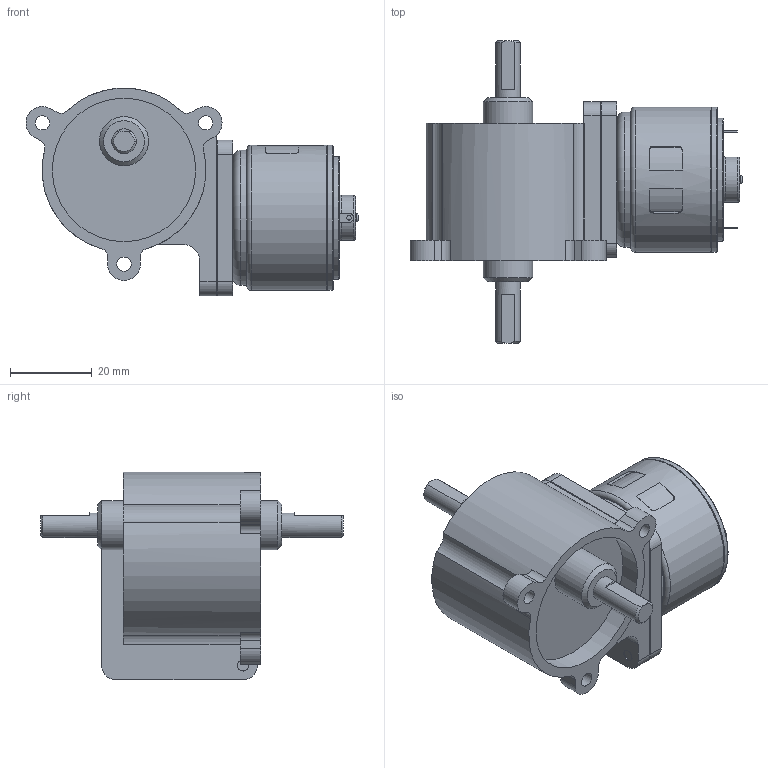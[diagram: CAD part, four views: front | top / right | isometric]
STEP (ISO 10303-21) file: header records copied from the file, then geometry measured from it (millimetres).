
FILE_DESCRIPTION(/* description */ (''),/* implementation_level */ '2;1');
FILE_NAME(/* name */ 'TP-3526NA-KWR.stp',/* time_stamp */ '2024-01-10T09:25:11+09:00',/* author */ ('user'),/* organization */ (''),/* preprocessor_version */ 'ST-DEVELOPER v19.2',/* originating_system */ 'Autodesk Inventor 2024',/* authorisation */ '');
FILE_SCHEMA (('AUTOMOTIVE_DESIGN { 1 0 10303 214 3 1 1 }'));
Length unit declared in the file: millimetre
Products named in the file (3): TP-3526NA-KWR-J00-24; kwr; TP-3526(KE)
Assembly tree (2 placements, depth 2):
  TP-3526NA-KWR-J00-24
    kwr
    TP-3526(KE)
Bounding box: 81.02 x 73.9 x 50.63 mm (x, y, z)
Volume: 77435.7 mm3; surface area: 16820.9 mm2
Topology: 2 solids, 2 shells, 156 faces, 361 edges, 237 vertices
Faces by surface type: plane 70, cylinder 67, cone 10, torus 9
Full cylindrical faces by diameter (mm): 1.1 x2, 2 x2, 2.113 x3, 2.4 x2, 2.75 x2, 3 x1, 3.5 x3, 5 x1, 6 x4, 10 x2, 11 x1, 12 x2, 30 x1, 33 x1, 35 x2, 35.4 x2
Entity records: 4744 total; most frequent: DIRECTION 842, CARTESIAN_POINT 836, ORIENTED_EDGE 716, EDGE_CURVE 358, AXIS2_PLACEMENT_3D 335, VERTEX_POINT 237, EDGE_LOOP 197, CIRCLE 174
